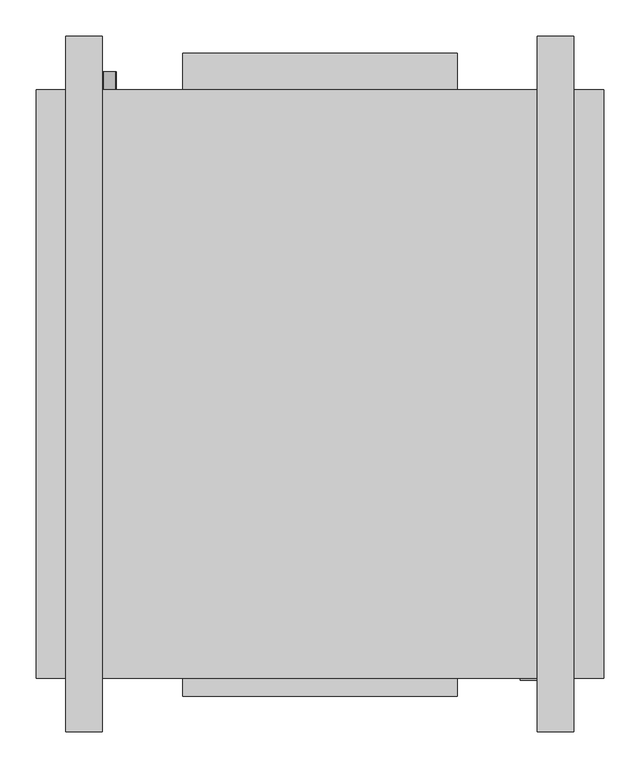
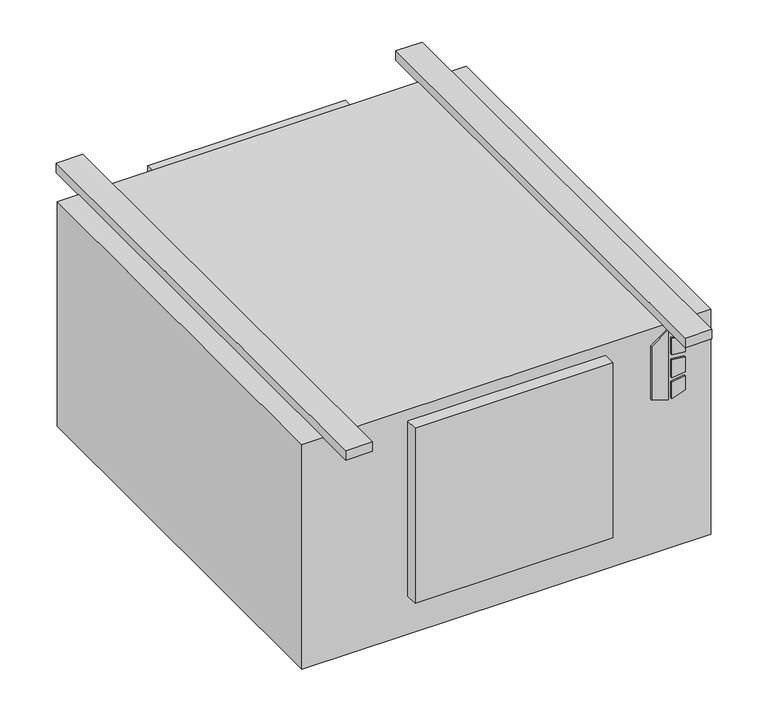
"""IFC4 building model written with IfcOpenShell, lengths in millimetres: proxy geometry, Concealed_High_Capacity_Horizontal_Cabinet_Fan_Coil_Unit_-_HXY_-_IEC_-_4-Pipe_LH_2022 : Size 06 - 277v/60Hz/1Ph - 6/2 Coil."""

from ifc_helpers import new_model, si_unit, point, frame, frame_2d, origin, origin_with_axes, place, context, project, spatial, polyline, circle_curve, trimmed, segment, composite_curve, outline, extrude, source, transform, mapped, element, save


def mechanical_equipment_ffe0c2fb(model_context):
    return source(origin(), model_context, "Body", "SweptSolid", [
        extrude(outline(polyline([(-142.4519297, 430.2868862), (-152.4, 462.4602728), (-10.2290756, 462.4602728), (-33.2510817, 430.2868862), (-142.4519297, 430.2868862)])), frame((0.0, -649.2875, 0.0), z_axis=(0.0, 1.0, 0.0), x_axis=(0.0, 0.0, 1.0)), (0.0, 0.0, 1.0), 3.175),
        extrude(outline(polyline([(-63.4526443, 469.2186058), (-66.6550368, 495.3), (-37.4261958, 495.3), (-29.3617807, 469.2186058), (-63.4526443, 469.2186058)])), frame((0.0, -649.2875, 0.0), z_axis=(0.0, 1.0, 0.0), x_axis=(0.0, 0.0, 1.0)), (0.0, 0.0, 1.0), 3.175),
        extrude(outline(polyline([(-115.3161712, 495.3), (-118.9816721, 469.2186058), (-152.4, 469.2186058), (-143.7657628, 495.3), (-115.3161712, 495.3)])), frame((0.0, -649.2875, 0.0), z_axis=(0.0, 1.0, 0.0), x_axis=(0.0, 0.0, 1.0)), (0.0, 0.0, 1.0), 3.175),
        extrude(outline(polyline([(-76.0010097, 495.3), (-73.7191834, 469.2186058), (-109.6567319, 469.2186058), (-106.9154669, 495.3), (-76.0010097, 495.3)])), frame((0.0, -649.2875, 0.0), z_axis=(0.0, 1.0, 0.0), x_axis=(0.0, 0.0, 1.0)), (0.0, 0.0, 1.0), 3.175),
        extrude(outline(composite_curve([segment(trimmed(circle_curve(frame_2d((-406.4, -139.7)), 9.525), [point((-406.4, -149.225))], [point((-406.4, -130.175))], False, "CARTESIAN"), True, "CONTINUOUS"), segment(trimmed(circle_curve(frame_2d((-406.4, -139.7)), 9.525), [point((-406.4, -130.175))], [point((-406.4, -149.225))], False, "CARTESIAN"), True, "CONTINUOUS")], self_intersect=False)), frame((0.0, 169.8625, 0.0), z_axis=(0.0, 1.0, 0.0), x_axis=(0.0, 0.0, 1.0)), (0.0, 0.0, 1.0), 25.4),
        extrude(outline(composite_curve([segment(trimmed(circle_curve(frame_2d((-330.2, -139.7)), 7.9375), [point((-330.2, -147.6375))], [point((-330.2, -131.7625))], False, "CARTESIAN"), True, "CONTINUOUS"), segment(trimmed(circle_curve(frame_2d((-330.2, -139.7)), 7.9375), [point((-330.2, -131.7625))], [point((-330.2, -147.6375))], False, "CARTESIAN"), True, "CONTINUOUS")], self_intersect=False)), frame((0.0, 169.8625, 0.0), z_axis=(0.0, 1.0, 0.0), x_axis=(0.0, 0.0, 1.0)), (0.0, 0.0, 1.0), 25.4),
        extrude(outline(composite_curve([segment(trimmed(circle_curve(frame_2d((-254.0, -139.7)), 7.9375), [point((-254.0, -147.6375))], [point((-254.0, -131.7625))], False, "CARTESIAN"), True, "CONTINUOUS"), segment(trimmed(circle_curve(frame_2d((-254.0, -139.7)), 7.9375), [point((-254.0, -131.7625))], [point((-254.0, -147.6375))], False, "CARTESIAN"), True, "CONTINUOUS")], self_intersect=False)), frame((0.0, 169.8625, 0.0), z_axis=(0.0, 1.0, 0.0), x_axis=(0.0, 0.0, 1.0)), (0.0, 0.0, 1.0), 25.4),
        extrude(outline(composite_curve([segment(trimmed(circle_curve(frame_2d((-177.8, -139.7)), 7.9375), [point((-177.8, -147.6375))], [point((-177.8, -131.7625))], False, "CARTESIAN"), True, "CONTINUOUS"), segment(trimmed(circle_curve(frame_2d((-177.8, -139.7)), 7.9375), [point((-177.8, -131.7625))], [point((-177.8, -147.6375))], False, "CARTESIAN"), True, "CONTINUOUS")], self_intersect=False)), frame((0.0, 169.8625, 0.0), z_axis=(0.0, 1.0, 0.0), x_axis=(0.0, 0.0, 1.0)), (0.0, 0.0, 1.0), 25.4),
        extrude(outline(composite_curve([segment(trimmed(circle_curve(frame_2d((-101.6, -139.7)), 7.9375), [point((-101.6, -147.6375))], [point((-101.6, -131.7625))], False, "CARTESIAN"), True, "CONTINUOUS"), segment(trimmed(circle_curve(frame_2d((-101.6, -139.7)), 7.9375), [point((-101.6, -131.7625))], [point((-101.6, -147.6375))], False, "CARTESIAN"), True, "CONTINUOUS")], self_intersect=False)), frame((0.0, 169.8625, 0.0), z_axis=(0.0, 1.0, 0.0), x_axis=(0.0, 0.0, 1.0)), (0.0, 0.0, 1.0), 25.4),
        extrude(outline(polyline([(546.1, 169.8625), (546.1, -646.1125), (-241.3, -646.1125), (-241.3, 169.8625), (546.1, 169.8625)])), frame((0.0, 0.0, -457.2), z_axis=(0.0, 0.0, 1.0), x_axis=(1.0, 0.0, 0.0)), (0.0, 0.0, 1.0), 457.2),
        extrude(outline(polyline([(-38.1, 220.6625), (342.9, 220.6625), (342.9, 169.8625), (-38.1, 169.8625), (-38.1, 220.6625)])), frame((0.0, 0.0, -377.825), z_axis=(0.0, 0.0, 1.0), x_axis=(1.0, 0.0, 0.0)), (0.0, 0.0, 1.0), 349.25),
        extrude(outline(polyline([(-149.225, 244.475), (-149.225, -720.725), (-200.025, -720.725), (-200.025, 244.475), (-149.225, 244.475)])), origin_with_axes(), (0.0, 0.0, 1.0), 19.05),
        extrude(outline(polyline([(504.825, 244.475), (504.825, -720.725), (454.025, -720.725), (454.025, 244.475), (504.825, 244.475)])), origin_with_axes(), (0.0, 0.0, 1.0), 19.05),
        extrude(outline(polyline([(342.9, -671.5125), (-38.1, -671.5125), (-38.1, -646.1125), (342.9, -646.1125), (342.9, -671.5125)])), frame((0.0, 0.0, -377.825), z_axis=(0.0, 0.0, 1.0), x_axis=(1.0, 0.0, 0.0)), (0.0, 0.0, 1.0), 355.6),
    ])


if __name__ == "__main__":
    model = new_model("IFC4")
    model_context = context("Model", 3, world=origin())
    ifc_project = project(units=[si_unit("LENGTHUNIT", "METRE", prefix="MILLI")], contexts=[model_context])
    site = spatial("IfcSite", under=ifc_project)
    building = spatial("IfcBuilding", under=site)
    placement = place(None, origin())
    mechanical_equipment_shape = mechanical_equipment_ffe0c2fb(model_context)
    element("IfcBuildingElementProxy", 1, Name="Concealed_High_Capacity_Horizontal_Cabinet_Fan_Coil_Unit_-_HXY_-_IEC_-_4-Pipe_LH_2022 : Size 06 - 277v/60Hz/1Ph - 6/2 Coil", ObjectType="Concealed_High_Capacity_Horizontal_Cabinet_Fan_Coil_Unit_-_HXY_-_IEC_-_4-Pipe_LH_2022 : Size 06 - 277v/60Hz/1Ph - 6/2 Coil", at=placement, inside=building, context=model_context, shape_type="MappedRepresentation", body=[
        mapped(mechanical_equipment_shape, transform((0.0, 0.0, 0.0), x_axis=(1.0, 0.0, 0.0), y_axis=(0.0, 1.0, 0.0), z_axis=(0.0, 0.0, 1.0))),
    ])
    save(model, "model.ifc")
